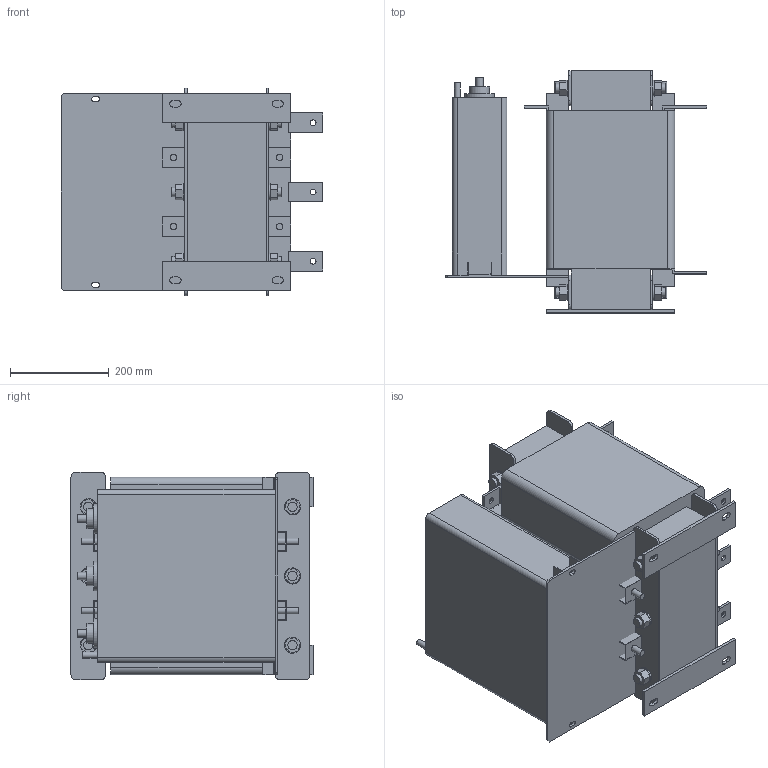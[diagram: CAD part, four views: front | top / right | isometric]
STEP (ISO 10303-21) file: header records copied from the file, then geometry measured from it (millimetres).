
FILE_DESCRIPTION(/* description */ (''),/* implementation_level */ '2;1');
FILE_NAME(/* name */ 'Sin-T6-400.stp',/* time_stamp */ '2025-02-25T11:05:35+04:00',/* author */ ('Лео'),/* organization */ (''),/* preprocessor_version */ 'ST-DEVELOPER v19.2',/* originating_system */ 'Autodesk Inventor 2024',/* authorisation */ '');
FILE_SCHEMA (('AUTOMOTIVE_DESIGN { 1 0 10303 214 3 1 1 }'));
Length unit declared in the file: millimetre
Products named in the file (1): Sin-T6-400
Bounding box: 530 x 490 x 420 mm (x, y, z)
Volume: 54529596.7 mm3; surface area: 2302796.9 mm2
Topology: 28 solids, 28 shells, 564 faces, 1239 edges, 772 vertices
Faces by surface type: plane 457, cylinder 107
Full cylindrical faces by diameter (mm): 12 x10, 13 x12, 15 x3, 19 x12, 32.562 x12, 40 x3, 60 x3
Entity records: 15289 total; most frequent: DIRECTION 2655, CARTESIAN_POINT 2576, ORIENTED_EDGE 2478, EDGE_CURVE 1239, LINE 953, VECTOR 953, AXIS2_PLACEMENT_3D 851, VERTEX_POINT 772
